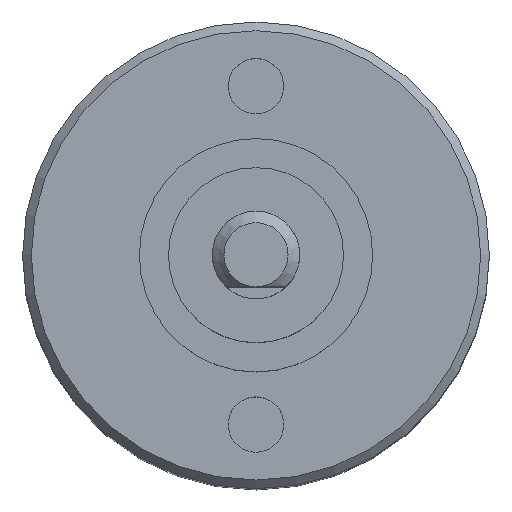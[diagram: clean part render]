
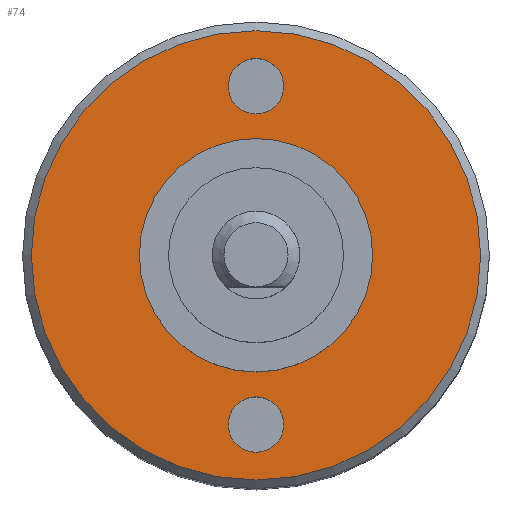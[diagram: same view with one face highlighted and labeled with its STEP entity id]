
A CAD part, top view. The second image highlights one B-rep face of the part: STEP entity #74.
In plain terms, the highlighted planar face has unit normal (0, 0, 1).
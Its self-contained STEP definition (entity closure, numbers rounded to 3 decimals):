
#47=PLANE('',#422);
#74=ADVANCED_FACE('',(#125,#126,#127,#128),#47,.T.);
#125=FACE_BOUND('',#180,.T.);
#126=FACE_BOUND('',#181,.T.);
#127=FACE_BOUND('',#182,.T.);
#128=FACE_BOUND('',#183,.T.);
#180=EDGE_LOOP('',(#241));
#181=EDGE_LOOP('',(#242));
#182=EDGE_LOOP('',(#243));
#183=EDGE_LOOP('',(#244));
#241=ORIENTED_EDGE('',*,*,#345,.T.);
#242=ORIENTED_EDGE('',*,*,#346,.T.);
#243=ORIENTED_EDGE('',*,*,#347,.T.);
#244=ORIENTED_EDGE('',*,*,#344,.T.);
#311=VERTEX_POINT('',#625);
#312=VERTEX_POINT('',#628);
#313=VERTEX_POINT('',#630);
#314=VERTEX_POINT('',#632);
#344=EDGE_CURVE('',#311,#311,#380,.T.);
#345=EDGE_CURVE('',#312,#312,#381,.T.);
#346=EDGE_CURVE('',#313,#313,#382,.T.);
#347=EDGE_CURVE('',#314,#314,#383,.T.);
#380=CIRCLE('',#417,2.);
#381=CIRCLE('',#419,3.85);
#382=CIRCLE('',#420,0.475);
#383=CIRCLE('',#421,0.475);
#417=AXIS2_PLACEMENT_3D('',#624,#497,#498);
#419=AXIS2_PLACEMENT_3D('',#627,#501,#502);
#420=AXIS2_PLACEMENT_3D('',#629,#503,#504);
#421=AXIS2_PLACEMENT_3D('',#631,#505,#506);
#422=AXIS2_PLACEMENT_3D('',#633,#507,#508);
#497=DIRECTION('',(0.,0.,-1.));
#498=DIRECTION('',(1.,0.,0.));
#501=DIRECTION('',(0.,0.,1.));
#502=DIRECTION('',(1.,0.,0.));
#503=DIRECTION('',(0.,0.,-1.));
#504=DIRECTION('',(1.,0.,0.));
#505=DIRECTION('',(0.,0.,-1.));
#506=DIRECTION('',(-1.,0.,0.));
#507=DIRECTION('',(0.,0.,1.));
#508=DIRECTION('',(1.,0.,0.));
#624=CARTESIAN_POINT('',(0.,0.,0.));
#625=CARTESIAN_POINT('',(2.,0.,0.));
#627=CARTESIAN_POINT('',(0.,0.,0.));
#628=CARTESIAN_POINT('',(3.85,0.,0.));
#629=CARTESIAN_POINT('',(0.,-2.9,0.));
#630=CARTESIAN_POINT('',(0.475,-2.9,0.));
#631=CARTESIAN_POINT('',(0.,2.9,0.));
#632=CARTESIAN_POINT('',(-0.475,2.9,0.));
#633=CARTESIAN_POINT('',(0.,0.,0.));
